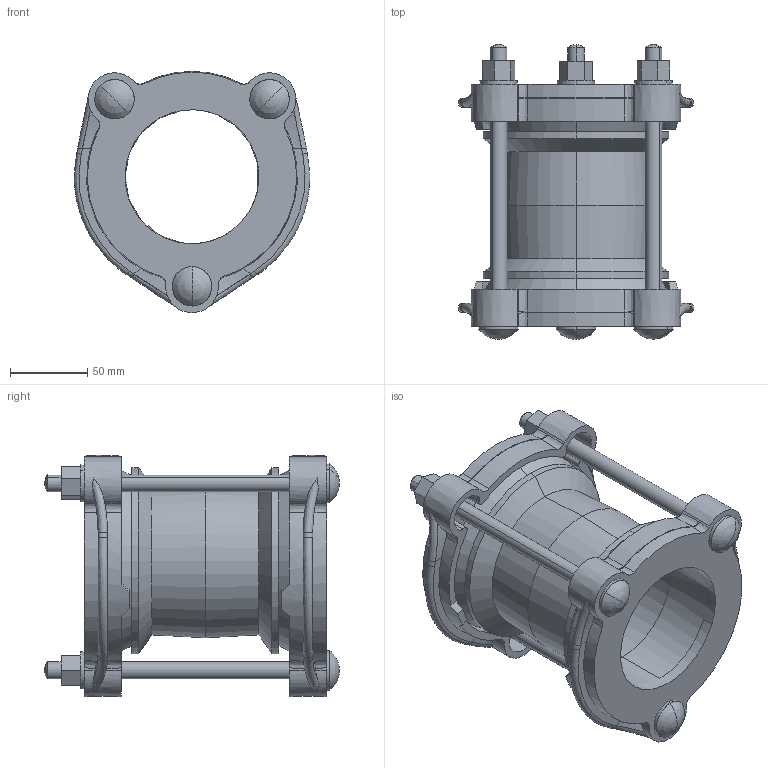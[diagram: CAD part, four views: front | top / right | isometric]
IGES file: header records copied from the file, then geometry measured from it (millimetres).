
Start section:  PTC IGES file: maxifit_63-85_alt.igs
Global section: file name: maxifit_63-85_alt.igs; native system: Creo Parametric by PTC Inc.; preprocessor: 2016130; author: MReader; organization: Unknown; date: 20180918.090346; units: millimetre
Bounding box: 151.94 x 190.33 x 155.77 mm (x, y, z)
Surface area: 209610.6 mm2 (no closed solid volume)
Topology: 0 solids, 0 shells, 338 faces, 1796 edges, 1784 vertices
Faces by surface type: revolution 194, bspline 144
